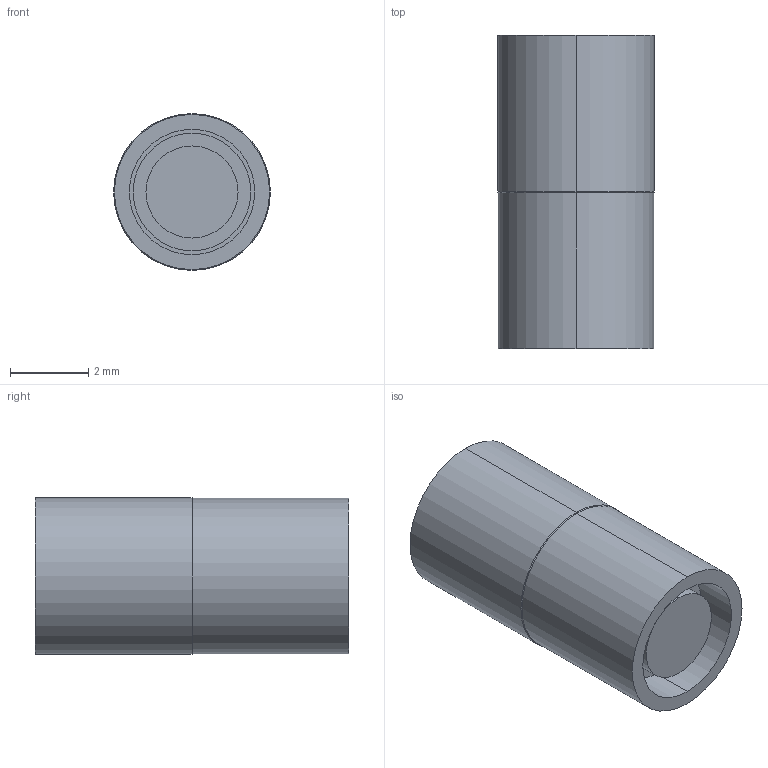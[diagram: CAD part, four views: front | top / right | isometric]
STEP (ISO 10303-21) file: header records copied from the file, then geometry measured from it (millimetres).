
FILE_DESCRIPTION (( 'STEP AP203' ), '1' );
FILE_NAME ('VA4.STEP', '2008-04-21T06:39:37', ( ' ' ), ( ' ' ), 'SwSTEP 2.0', 'SolidWorks 2005204', '' );
FILE_SCHEMA (( 'CONFIG_CONTROL_DESIGN' ));
Length unit declared in the file: millimetre
Products named in the file (1): VA4
Bounding box: 4 x 8 x 4 mm (x, y, z)
Volume: 75.5 mm3; surface area: 271.7 mm2
Topology: 2 solids, 2 shells, 31 faces, 60 edges, 38 vertices
Faces by surface type: cylinder 16, plane 9, cone 6
Entity records: 883 total; most frequent: DIRECTION 162, CARTESIAN_POINT 130, ORIENTED_EDGE 120, AXIS2_PLACEMENT_3D 70, EDGE_CURVE 60, CIRCLE 38, EDGE_LOOP 38, VERTEX_POINT 38
